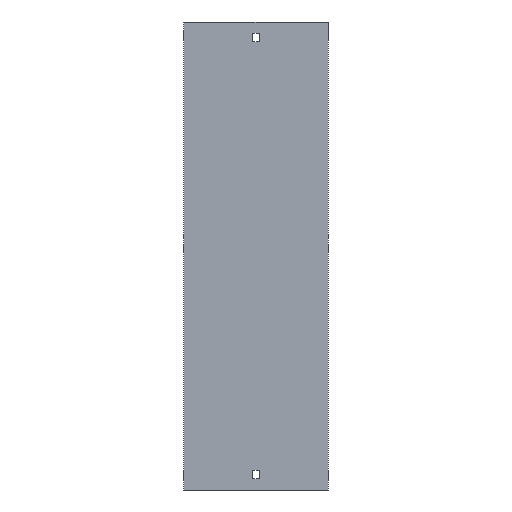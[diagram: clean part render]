
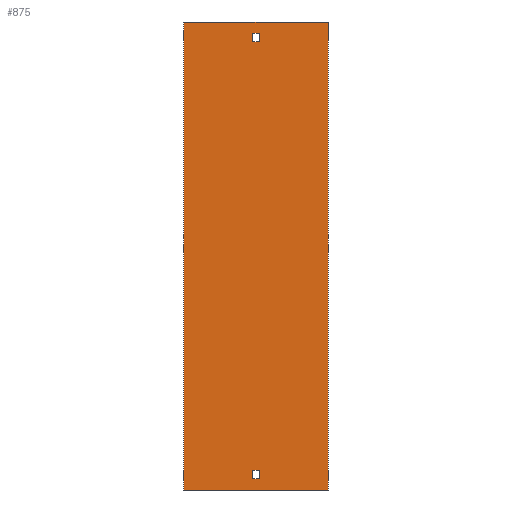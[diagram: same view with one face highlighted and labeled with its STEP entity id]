
A CAD part, front view. The second image highlights one B-rep face of the part: STEP entity #875.
In plain terms, the highlighted planar face has unit normal (0, -1, 0).
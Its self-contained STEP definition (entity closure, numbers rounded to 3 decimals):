
#4 = FACE_OUTER_BOUND ( 'NONE', #649, .T. ) ;
#26 = LINE ( 'NONE', #722, #736 ) ;
#39 = ORIENTED_EDGE ( 'NONE', *, *, #1034, .T. ) ;
#47 = DIRECTION ( 'NONE',  ( -1., 0., 0. ) ) ;
#57 = EDGE_LOOP ( 'NONE', ( #275, #235, #723, #39 ) ) ;
#67 = CARTESIAN_POINT ( 'NONE',  ( -3.25, 0., 229. ) ) ;
#72 = LINE ( 'NONE', #262, #328 ) ;
#95 = CARTESIAN_POINT ( 'NONE',  ( -3.25, 0., -238. ) ) ;
#102 = VERTEX_POINT ( 'NONE', #939 ) ;
#108 = LINE ( 'NONE', #906, #395 ) ;
#137 = VERTEX_POINT ( 'NONE', #679 ) ;
#141 = CARTESIAN_POINT ( 'NONE',  ( 3.25, 0., -238. ) ) ;
#153 = LINE ( 'NONE', #425, #777 ) ;
#157 = DIRECTION ( 'NONE',  ( 0., 0., -1. ) ) ;
#164 = CARTESIAN_POINT ( 'NONE',  ( -77., 0., 250. ) ) ;
#216 = VECTOR ( 'NONE', #544, 1000. ) ;
#217 = VERTEX_POINT ( 'NONE', #965 ) ;
#218 = ORIENTED_EDGE ( 'NONE', *, *, #387, .F. ) ;
#226 = VERTEX_POINT ( 'NONE', #95 ) ;
#233 = VECTOR ( 'NONE', #47, 1000. ) ;
#234 = VECTOR ( 'NONE', #596, 1000. ) ;
#235 = ORIENTED_EDGE ( 'NONE', *, *, #1109, .T. ) ;
#247 = EDGE_CURVE ( 'NONE', #102, #482, #706, .T. ) ;
#262 = CARTESIAN_POINT ( 'NONE',  ( -77., 0., 250. ) ) ;
#269 = EDGE_LOOP ( 'NONE', ( #477, #668, #218, #542 ) ) ;
#275 = ORIENTED_EDGE ( 'NONE', *, *, #748, .T. ) ;
#288 = VECTOR ( 'NONE', #770, 1000. ) ;
#300 = VERTEX_POINT ( 'NONE', #1067 ) ;
#325 = LINE ( 'NONE', #1054, #234 ) ;
#328 = VECTOR ( 'NONE', #801, 1000. ) ;
#367 = ORIENTED_EDGE ( 'NONE', *, *, #247, .T. ) ;
#374 = EDGE_CURVE ( 'NONE', #1092, #416, #26, .T. ) ;
#382 = CARTESIAN_POINT ( 'NONE',  ( 3.25, 0., 238. ) ) ;
#387 = EDGE_CURVE ( 'NONE', #416, #300, #633, .T. ) ;
#395 = VECTOR ( 'NONE', #822, 1000. ) ;
#398 = CARTESIAN_POINT ( 'NONE',  ( -3.25, 0., -238. ) ) ;
#416 = VERTEX_POINT ( 'NONE', #382 ) ;
#417 = DIRECTION ( 'NONE',  ( 0., 0., -1. ) ) ;
#425 = CARTESIAN_POINT ( 'NONE',  ( -77., 0., 250. ) ) ;
#433 = LINE ( 'NONE', #67, #288 ) ;
#454 = EDGE_CURVE ( 'NONE', #137, #482, #108, .T. ) ;
#463 = DIRECTION ( 'NONE',  ( 0., 0., 1. ) ) ;
#477 = ORIENTED_EDGE ( 'NONE', *, *, #862, .F. ) ;
#482 = VERTEX_POINT ( 'NONE', #590 ) ;
#501 = CARTESIAN_POINT ( 'NONE',  ( 3.25, 0., 229. ) ) ;
#513 = VERTEX_POINT ( 'NONE', #141 ) ;
#525 = CARTESIAN_POINT ( 'NONE',  ( -3.25, 0., -229. ) ) ;
#542 = ORIENTED_EDGE ( 'NONE', *, *, #374, .F. ) ;
#544 = DIRECTION ( 'NONE',  ( 1., 0., 0. ) ) ;
#546 = LINE ( 'NONE', #899, #1086 ) ;
#560 = DIRECTION ( 'NONE',  ( 0., 0., 1. ) ) ;
#590 = CARTESIAN_POINT ( 'NONE',  ( 77., 0., -250. ) ) ;
#596 = DIRECTION ( 'NONE',  ( -1., 0., 0. ) ) ;
#603 = FACE_BOUND ( 'NONE', #269, .T. ) ;
#633 = LINE ( 'NONE', #839, #233 ) ;
#649 = EDGE_LOOP ( 'NONE', ( #367, #898, #765, #664 ) ) ;
#661 = EDGE_CURVE ( 'NONE', #920, #137, #72, .T. ) ;
#664 = ORIENTED_EDGE ( 'NONE', *, *, #978, .T. ) ;
#668 = ORIENTED_EDGE ( 'NONE', *, *, #1009, .F. ) ;
#679 = CARTESIAN_POINT ( 'NONE',  ( 77., 0., 250. ) ) ;
#689 = DIRECTION ( 'NONE',  ( -1., 0., 0. ) ) ;
#700 = LINE ( 'NONE', #1027, #799 ) ;
#703 = VECTOR ( 'NONE', #463, 1000. ) ;
#706 = LINE ( 'NONE', #975, #1085 ) ;
#717 = VERTEX_POINT ( 'NONE', #1017 ) ;
#722 = CARTESIAN_POINT ( 'NONE',  ( 3.25, 0., 238. ) ) ;
#723 = ORIENTED_EDGE ( 'NONE', *, *, #812, .T. ) ;
#736 = VECTOR ( 'NONE', #560, 1000. ) ;
#748 = EDGE_CURVE ( 'NONE', #226, #717, #821, .T. ) ;
#763 = PLANE ( 'NONE',  #1104 ) ;
#765 = ORIENTED_EDGE ( 'NONE', *, *, #661, .F. ) ;
#770 = DIRECTION ( 'NONE',  ( 1., 0., 0. ) ) ;
#777 = VECTOR ( 'NONE', #157, 1000. ) ;
#799 = VECTOR ( 'NONE', #417, 1000. ) ;
#801 = DIRECTION ( 'NONE',  ( 1., 0., 0. ) ) ;
#808 = LINE ( 'NONE', #525, #216 ) ;
#812 = EDGE_CURVE ( 'NONE', #1096, #513, #546, .T. ) ;
#815 = DIRECTION ( 'NONE',  ( 0., 0., -1. ) ) ;
#821 = LINE ( 'NONE', #398, #703 ) ;
#822 = DIRECTION ( 'NONE',  ( 0., 0., -1. ) ) ;
#839 = CARTESIAN_POINT ( 'NONE',  ( -3.25, 0., 238. ) ) ;
#861 = CARTESIAN_POINT ( 'NONE',  ( -77., 0., 250. ) ) ;
#862 = EDGE_CURVE ( 'NONE', #217, #1092, #433, .T. ) ;
#875 = ADVANCED_FACE ( 'NONE', ( #4, #603, #962 ), #763, .F. ) ;
#897 = DIRECTION ( 'NONE',  ( 1., 0., 0. ) ) ;
#898 = ORIENTED_EDGE ( 'NONE', *, *, #454, .F. ) ;
#899 = CARTESIAN_POINT ( 'NONE',  ( 3.25, 0., -238. ) ) ;
#906 = CARTESIAN_POINT ( 'NONE',  ( 77., 0., 250. ) ) ;
#920 = VERTEX_POINT ( 'NONE', #164 ) ;
#939 = CARTESIAN_POINT ( 'NONE',  ( -77., 0., -250. ) ) ;
#962 = FACE_BOUND ( 'NONE', #57, .T. ) ;
#965 = CARTESIAN_POINT ( 'NONE',  ( -3.25, 0., 229. ) ) ;
#975 = CARTESIAN_POINT ( 'NONE',  ( -77., 0., -250. ) ) ;
#978 = EDGE_CURVE ( 'NONE', #920, #102, #153, .T. ) ;
#1009 = EDGE_CURVE ( 'NONE', #300, #217, #700, .T. ) ;
#1017 = CARTESIAN_POINT ( 'NONE',  ( -3.25, 0., -229. ) ) ;
#1027 = CARTESIAN_POINT ( 'NONE',  ( -3.25, 0., 238. ) ) ;
#1034 = EDGE_CURVE ( 'NONE', #513, #226, #325, .T. ) ;
#1054 = CARTESIAN_POINT ( 'NONE',  ( -3.25, 0., -238. ) ) ;
#1055 = DIRECTION ( 'NONE',  ( 0., 1., 0. ) ) ;
#1067 = CARTESIAN_POINT ( 'NONE',  ( -3.25, 0., 238. ) ) ;
#1085 = VECTOR ( 'NONE', #897, 1000. ) ;
#1086 = VECTOR ( 'NONE', #815, 1000. ) ;
#1092 = VERTEX_POINT ( 'NONE', #501 ) ;
#1096 = VERTEX_POINT ( 'NONE', #1113 ) ;
#1104 = AXIS2_PLACEMENT_3D ( 'NONE', #861, #1055, #689 ) ;
#1109 = EDGE_CURVE ( 'NONE', #717, #1096, #808, .T. ) ;
#1113 = CARTESIAN_POINT ( 'NONE',  ( 3.25, 0., -229. ) ) ;
